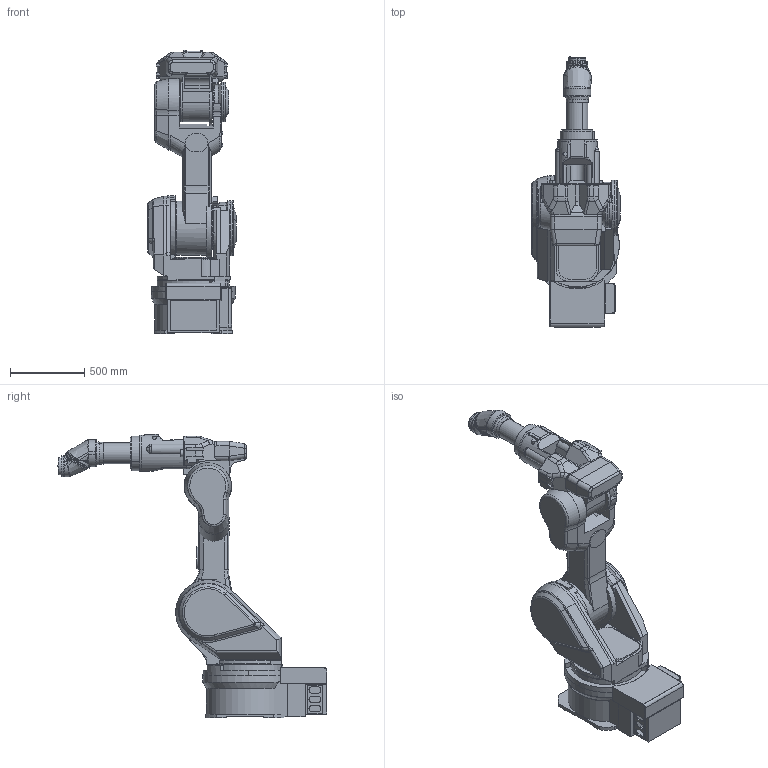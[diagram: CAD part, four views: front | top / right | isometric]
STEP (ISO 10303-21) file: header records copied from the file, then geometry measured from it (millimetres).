
FILE_DESCRIPTION(('CATIA V5 STEP Exchange'),'2;1');
FILE_NAME('C:\Users\RBUSERS\Desktop\KF194_CATIA-ASSY.stp','2013-09-05T11:07:32+00:00',('none'),('none'),'CATIA Version 5 Release 20 SP 4 (IN-10)','CATIA V5 STEP AP203','none');
FILE_SCHEMA(('CONFIG_CONTROL_DESIGN'));
Length unit declared in the file: millimetre
Products named in the file (1): KF194_CATIA-ASSY
Assembly tree (7 placements, depth 2):
  KF194_CATIA-ASSY
    #58
    #4936
    #11090
    #17702
    #28413
    #32345
    #37095
Bounding box: 596 x 1815 x 1908.3 mm (x, y, z)
Surface area: 7437261.8 mm2 (no closed solid volume)
Topology: 0 solids, 8 shells, 905 faces, 2388 edges, 1534 vertices
Faces by surface type: plane 437, cylinder 288, bspline 107, torus 36, cone 24, sphere 6, revolution 5, extrusion 2
Entity records: 37475 total; most frequent: CARTESIAN_POINT 16779, ORIENTED_EDGE 4762, DIRECTION 3282, EDGE_CURVE 2381, VERTEX_POINT 1527, VECTOR 1349, LINE 1347, AXIS2_PLACEMENT_3D 1276
